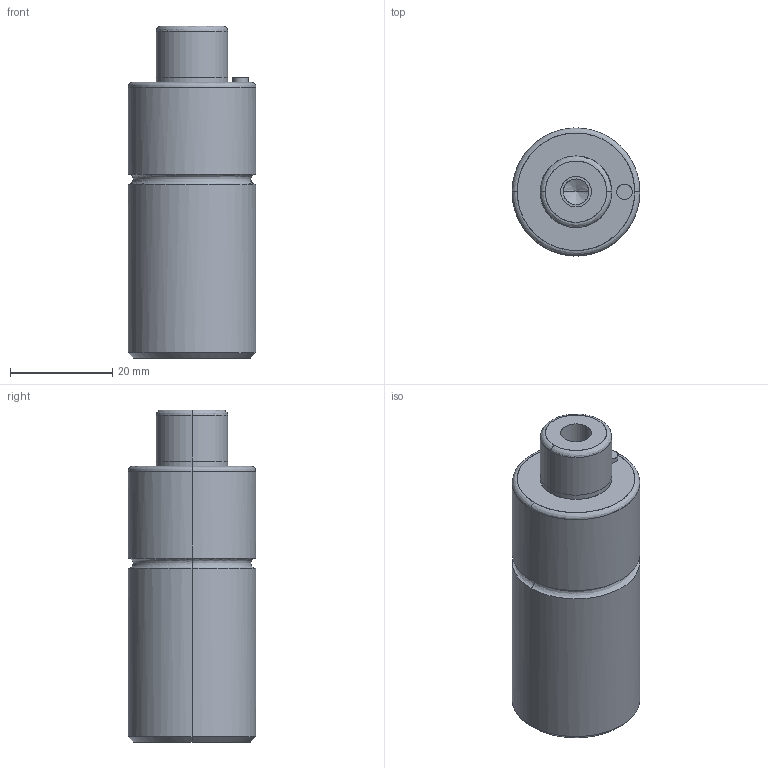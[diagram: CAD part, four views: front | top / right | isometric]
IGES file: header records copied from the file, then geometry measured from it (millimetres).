
Global section: file name: E:\UnigraphicsGraphicData\MISUMI_PRESS-PARTS\IGES\3d_mgsa25-10_04549_r00.igs; native system: NX V5.0; preprocessor: UGS NX IGES V5.0; author: MISUMI; date: 20110105.161432; units: millimetre
Bounding box: 25 x 24.97 x 65 mm (x, y, z)
Surface area: 6027.9 mm2 (no closed solid volume)
Topology: 0 solids, 0 shells, 36 faces, 216 edges, 212 vertices
Faces by surface type: bspline 36
